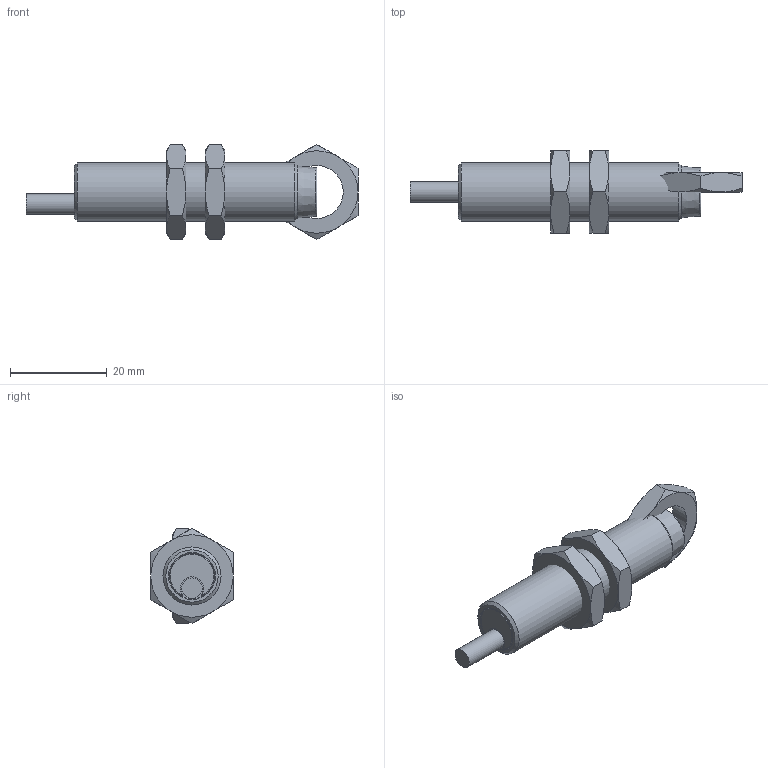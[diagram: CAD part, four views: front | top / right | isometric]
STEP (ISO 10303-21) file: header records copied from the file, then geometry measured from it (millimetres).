
FILE_DESCRIPTION( ( 'Unknown' ), '1' );
FILE_NAME( '//baumerholding.org/frauenfeld/bereich/BECH/Services/me_CAD/Solid Edge/Models/Dokumentationen/Induktiv/IxRx 12/Vereinfachte Modelle/Neutralformate/IFRM 12xx3T1_L.stp', 'Unknown', ( 'Unknown' ), ( 'Unknown' ), 'PSStep 10.0', 'Unknown', ' ' );
FILE_SCHEMA( ( 'AUTOMOTIVE_DESIGN { 1 0 10303 214 1 1 1 1 }' ) );
Length unit declared in the file: millimetre
Products named in the file (3): Assem1; 101470; IFRM 12xx3T1_L_oA
Bounding box: 68.5 x 17 x 19.63 mm (x, y, z)
Volume: 13174.5 mm3; surface area: 6381.9 mm2
Topology: 5 solids, 7 shells, 107 faces, 228 edges, 141 vertices
Faces by surface type: cone 50, plane 46, cylinder 9, torus 2
Full cylindrical faces by diameter (mm): 4.2 x2, 10 x2, 10.917 x3, 12 x2
Entity records: 1308 total; most frequent: CARTESIAN_POINT 329, DIRECTION 172, ORIENTED_EDGE 152, AXIS2_PLACEMENT_3D 79, EDGE_CURVE 76, EDGE_LOOP 60, VERTEX_POINT 52, FACE_OUTER_BOUND 48
